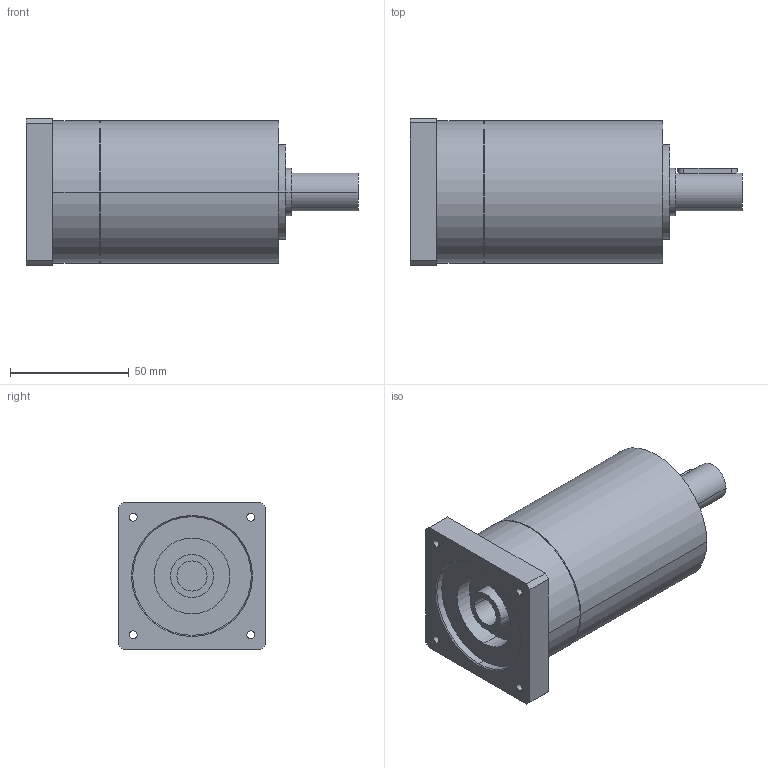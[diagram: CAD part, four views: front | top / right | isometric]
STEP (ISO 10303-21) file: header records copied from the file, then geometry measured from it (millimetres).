
FILE_DESCRIPTION(('CoCreate Modeling STEP Export'),'2;1');
FILE_NAME('GPR75_ig-9-12-16-20-24-30-36_16_B14_12.7_P31.stp','2014-08-25T16:02:04',(''),(''),'CoCreate Modeling STEP processor for AP214 (Solid Model)','CoCreate Modeling 16.00C 25-Feb-2009 (C) Parametric Technology GmbH','');
FILE_SCHEMA(('AUTOMOTIVE_DESIGN { 1 0 10303 214 1 1 1 1 }'));
Length unit declared in the file: millimetre
Products named in the file (2): GPR75_ig-9-12-16-20-24-30-36_16_B14_12.7_P31
Assembly tree (1 placements, depth 2):
  GPR75_ig-9-12-16-20-24-30-36_16_B14_12.7_P31
    GPR75_ig-9-12-16-20-24-30-36_16_B14_12.7_P31
Bounding box: 139.9 x 62 x 62 mm (x, y, z)
Volume: 306136.1 mm3; surface area: 34515.4 mm2
Topology: 1 solids, 1 shells, 72 faces, 192 edges, 134 vertices
Faces by surface type: cylinder 42, plane 22, cone 8
Entity records: 1979 total; most frequent: ORIENTED_EDGE 380, CARTESIAN_POINT 366, DIRECTION 268, EDGE_CURVE 190, VERTEX_POINT 134, AXIS2_PLACEMENT_3D 100, EDGE_LOOP 94, FACE_OUTER_BOUND 72
